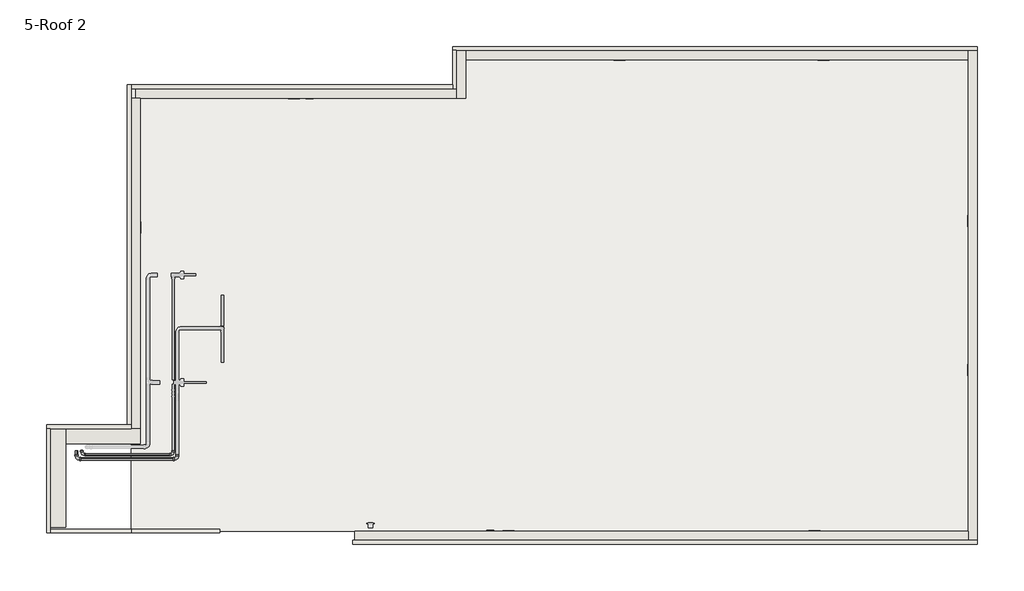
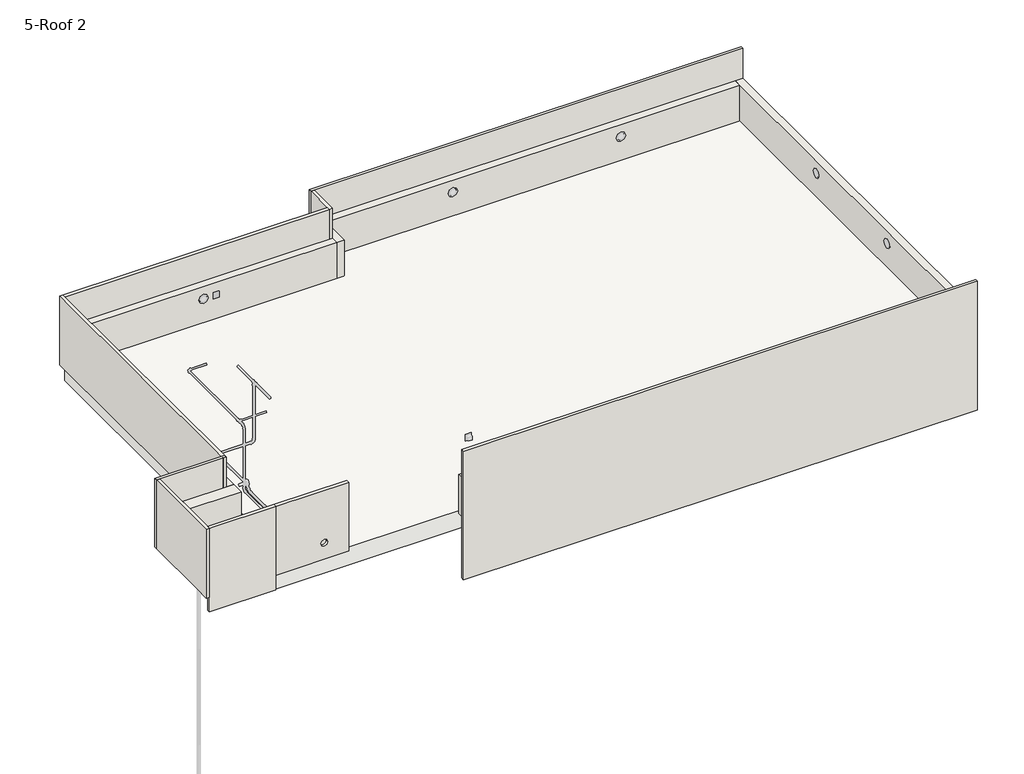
# One storey, part 1 of 2: 17 walls, 4 pipe fittings, 4 pipe segments, 1 light fixture, 1 slab.
"""IFC4 building model written with IfcOpenShell, lengths in millimetres."""

from ifc_helpers import new_model, si_unit, point, frame, frame_2d, origin, place, context, project, spatial, polyline, circle_curve, trimmed, segment, composite_curve, outline, extrude, faceted_brep, transform, mapped, element, save
from ifc_brep_helpers import plane_surface, revolved_surface, advanced_brep
from components import m_recessed_lamp_round_led_e6f06c98, m_bend_pvc_sch_40_dwv_standard_b153bf5a, m_bend_pvc_sch_40_dwv_standard_be9000f5

model = new_model("IFC4")

# Units and contexts
model_context = context("Model", 3, world=origin())
ifc_project = project(units=[si_unit("LENGTHUNIT", "METRE", prefix="MILLI")], contexts=[model_context])

# Site, building, storey
site = spatial("IfcSite", under=ifc_project)
building = spatial("IfcBuilding", under=site)
storey = spatial("IfcBuildingStorey", under=building, Name="5-Roof 2", Elevation=13150.0)

# Light fixture
placement = place(None, origin())
m_recessed_lamp_round_led_shape = m_recessed_lamp_round_led_e6f06c98(model_context)
element("IfcLightFixture", 1, ObjectType="M_Recessed Lamp - Round - LED : 100mm Trimless Downlight", at=placement, inside=storey, context=model_context, shape_type="MappedRepresentation", body=[
    mapped(m_recessed_lamp_round_led_shape, transform((-152.1225102, 2950.6486583, 13600.0), x_axis=(-1.0, 0.0, 0.0), y_axis=(0.0, 0.0, 1.0), z_axis=(0.0, 1.0, 0.0))),
])

# Pipe fittings
m_bend_pvc_sch_40_dwv_standard_shape = m_bend_pvc_sch_40_dwv_standard_b153bf5a(model_context)
element("IfcPipeFitting", 2, ObjectType="M_Bend - PVC - Sch 40 - DWV : Standard", at=placement, inside=storey, context=model_context, shape_type="MappedRepresentation", body=[
    mapped(m_bend_pvc_sch_40_dwv_standard_shape, transform((-5767.4765921, 3888.5526358, 13275.0), x_axis=(0.0, -1.0, 0.0), y_axis=(1.0, 0.0, 0.0), z_axis=(0.0, 0.0, 1.0))),
])
element("IfcPipeFitting", 3, ObjectType="M_Bend - PVC - Sch 40 - DWV : Standard", at=placement, inside=storey, context=model_context, shape_type="MappedRepresentation", body=[
    mapped(m_bend_pvc_sch_40_dwv_standard_shape, transform((-4457.4765921, 3888.5526358, 13275.0), x_axis=(1.0, 0.0, 0.0), y_axis=(0.0, 1.0, 0.0), z_axis=(0.0, 0.0, 1.0))),
])
m_bend_pvc_sch_40_dwv_standard_2_shape = m_bend_pvc_sch_40_dwv_standard_be9000f5(model_context)
element("IfcPipeFitting", 4, ObjectType="M_Bend - PVC - Sch 40 - DWV : Standard", at=placement, inside=storey, context=model_context, shape_type="MappedRepresentation", body=[
    mapped(m_bend_pvc_sch_40_dwv_standard_2_shape, transform((-5698.6248234, 3946.4412776, 13274.9999768), x_axis=(0.0, -0.9999999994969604, -3.171875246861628e-05), y_axis=(0.9999999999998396, -1.7965700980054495e-11, 5.664062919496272e-07), z_axis=(-5.66406292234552e-07, -3.1718752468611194e-05, 0.9999999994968))),
])
element("IfcPipeFitting", 5, ObjectType="M_Bend - PVC - Sch 40 - DWV : Standard", at=placement, inside=storey, context=model_context, shape_type="MappedRepresentation", body=[
    mapped(m_bend_pvc_sch_40_dwv_standard_2_shape, transform((-4508.6248234, 3946.4412776, 13275.0007092), x_axis=(0.9999999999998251, 0.0, 5.914890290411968e-07), y_axis=(0.0, 0.9999999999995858, -9.103269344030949e-07), z_axis=(-5.914890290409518e-07, 9.10326934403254e-07, 0.9999999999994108))),
])

# Pipe segments
element("IfcPipeSegment", 6, ObjectType="PVC - DWV", at=placement, inside=storey, context=model_context, shape_type="SweptSolid", body=[
    extrude(outline(composite_curve([segment(trimmed(circle_curve(frame_2d((13275.0, -5767.4765921)), 16.7005), [point((13275.0, -5784.1770921))], [point((13258.2995, -5767.4765921))], False, "CARTESIAN"), True, "CONTINUOUS"), segment(trimmed(circle_curve(frame_2d((13275.0, -5767.4765921)), 16.7005), [point((13258.2995, -5767.4765921))], [point((13275.0, -5750.7760921))], False, "CARTESIAN"), True, "CONTINUOUS"), segment(trimmed(circle_curve(frame_2d((13275.0, -5767.4765921)), 16.7005), [point((13275.0, -5750.7760921))], [point((13291.7005, -5767.4765921))], False, "CARTESIAN"), True, "CONTINUOUS"), segment(trimmed(circle_curve(frame_2d((13275.0, -5767.4765921)), 16.7005), [point((13291.7005, -5767.4765921))], [point((13275.0, -5784.1770921))], False, "CARTESIAN"), True, "CONTINUOUS")], self_intersect=False)), frame((0.0, 3941.1666983, 0.0), z_axis=(0.0, 1.0, 0.0), x_axis=(0.0, 0.0, 1.0)), (0.0, 0.0, 1.0), 54.771875),
])
element("IfcPipeSegment", 7, ObjectType="PVC - DWV", at=placement, inside=storey, context=model_context, shape_type="SweptSolid", body=[
    extrude(outline(composite_curve([segment(trimmed(circle_curve(frame_2d((3888.5526358, 13275.0)), 16.7005), [point((3871.8521358, 13275.0))], [point((3888.5526358, 13291.7005))], False, "CARTESIAN"), True, "CONTINUOUS"), segment(trimmed(circle_curve(frame_2d((3888.5526358, 13275.0)), 16.7005), [point((3888.5526358, 13291.7005))], [point((3905.2531358, 13275.0))], False, "CARTESIAN"), True, "CONTINUOUS"), segment(trimmed(circle_curve(frame_2d((3888.5526358, 13275.0)), 16.7005), [point((3905.2531358, 13275.0))], [point((3888.5526358, 13258.2995))], False, "CARTESIAN"), True, "CONTINUOUS"), segment(trimmed(circle_curve(frame_2d((3888.5526358, 13275.0)), 16.7005), [point((3888.5526358, 13258.2995))], [point((3871.8521358, 13275.0))], False, "CARTESIAN"), True, "CONTINUOUS")], self_intersect=False)), frame((-5714.8625296, 0.0, 0.0), z_axis=(1.0, 0.0, 0.0), x_axis=(0.0, 1.0, 0.0)), (0.0, 0.0, 1.0), 1204.771875),
])
element("IfcPipeSegment", 8, ObjectType="PVC - DWV", at=placement, inside=storey, context=model_context, shape_type="SweptSolid", body=[
    extrude(outline(composite_curve([segment(trimmed(circle_curve(frame_2d((13275.0016643, -5698.6248234)), 13.335), [point((13275.0016643, -5711.9598234))], [point((13261.6666643, -5698.6248234))], False, "CARTESIAN"), True, "CONTINUOUS"), segment(trimmed(circle_curve(frame_2d((13275.0016643, -5698.6248234)), 13.335), [point((13261.6666643, -5698.6248234))], [point((13275.0016643, -5685.2898234))], False, "CARTESIAN"), True, "CONTINUOUS"), segment(trimmed(circle_curve(frame_2d((13275.0016643, -5698.6248234)), 13.335), [point((13275.0016643, -5685.2898234))], [point((13288.3366643, -5698.6248234))], False, "CARTESIAN"), True, "CONTINUOUS"), segment(trimmed(circle_curve(frame_2d((13275.0016643, -5698.6248234)), 13.335), [point((13288.3366643, -5698.6248234))], [point((13275.0016643, -5711.9598234))], False, "CARTESIAN"), True, "CONTINUOUS")], self_intersect=False)), frame((0.0, 3993.25534, 0.0), z_axis=(0.0, 1.0, 0.0), x_axis=(0.0, 0.0, 1.0)), (0.0, 0.0, 1.0), 6.3892093),
])
element("IfcPipeSegment", 9, ObjectType="PVC - DWV", at=placement, inside=storey, context=model_context, shape_type="SweptSolid", body=[
    extrude(outline(composite_curve([segment(trimmed(circle_curve(frame_2d((3946.4412776, 13275.0000033)), 13.335), [point((3933.1062776, 13275.0000033))], [point((3946.4412776, 13288.3350033))], False, "CARTESIAN"), True, "CONTINUOUS"), segment(trimmed(circle_curve(frame_2d((3946.4412776, 13275.0000033)), 13.335), [point((3946.4412776, 13288.3350033))], [point((3959.7762776, 13275.0000033))], False, "CARTESIAN"), True, "CONTINUOUS"), segment(trimmed(circle_curve(frame_2d((3946.4412776, 13275.0000033)), 13.335), [point((3959.7762776, 13275.0000033))], [point((3946.4412776, 13261.6650033))], False, "CARTESIAN"), True, "CONTINUOUS"), segment(trimmed(circle_curve(frame_2d((3946.4412776, 13275.0000033)), 13.335), [point((3946.4412776, 13261.6650033))], [point((3933.1062776, 13275.0000033))], False, "CARTESIAN"), True, "CONTINUOUS")], self_intersect=False)), frame((-5651.8107609, 0.0, 0.0), z_axis=(1.0, 0.0, 0.0), x_axis=(0.0, 1.0, 0.0)), (0.0, 0.0, 1.0), 1096.371875),
])

# Slab
element("IfcSlab", 10, ObjectType="Generic 250mm", at=placement, inside=storey, context=model_context, shape_type="Brep", body=[
    faceted_brep([(-5057.4765921, 2950.6486583, 12900.0), (-5057.4765921, 8701.6620874, 12900.0), (-827.4765921, 8701.6620874, 12900.0), (-827.4765921, 9201.6620874, 12900.0), (3212.5234079, 9201.6620874, 12900.0), (3712.5234079, 9201.6620874, 12900.0), (5947.8774898, 9201.6620874, 12900.0), (5947.8774898, 2950.6486583, 12900.0), (3712.5234079, 2950.6486583, 12900.0), (3212.5234079, 2950.6486583, 12900.0), (-5057.4765921, 2950.6486583, 13200.0), (5827.8774898, 2950.6486583, 13200.0), (5947.8774898, 2950.6486583, 13200.0), (5947.8774898, 9201.6620874, 13200.0), (5827.8774898, 9201.6620874, 13200.0), (-707.4765921, 9201.6620874, 13200.0), (-827.4765921, 9201.6620874, 13200.0), (-827.4765921, 8701.6620874, 13200.0), (-5057.4765921, 8701.6620874, 13200.0), (5947.8774898, 2950.6486583, 13150.0)], [[[0, 1, 2, 3, 4, 5, 6, 7, 8, 9]], [[10, 11, 12, 13, 14, 15, 16, 17, 18]], [[1, 0, 10, 18]], [[2, 1, 18, 17]], [[3, 2, 17, 16]], [[6, 5, 4, 3, 16, 15, 14, 13]], [[7, 6, 13, 12, 19]], [[0, 9, 8, 7, 19, 12, 11, 10]]]),
])

# Walls
element("IfcWall", 11, ObjectType="Generic - 200mm", at=placement, inside=storey, context=model_context, shape_type="Brep", body=[
    faceted_brep([(-4937.4765921, 4284.4560655, 13150.0), (-5057.4765921, 4284.4560655, 13150.0), (-5107.4765921, 4284.4560655, 13150.0), (-5907.4765921, 4284.4560655, 13150.0), (-5907.4765921, 4284.4560655, 13800.0), (-5057.4765921, 4284.4560655, 13800.0), (-4937.4765921, 4284.4560655, 13800.0), (-4937.4765921, 4084.4560655, 13150.0), (-4937.4765921, 4084.4560655, 13800.0), (-5907.4765921, 4084.4560655, 13800.0), (-5907.4765921, 4084.4560655, 13150.0)], [[[0, 1, 2, 3, 4, 5, 6]], [[7, 8, 9, 10]], [[3, 2, 1, 0, 7, 10]], [[6, 5, 4, 9, 8]], [[4, 3, 10, 9]], [[0, 6, 8, 7]]]),
])
element("IfcWall", 12, ObjectType="Generic - 200mm", at=placement, inside=storey, context=model_context, shape_type="Brep", body=[
    faceted_brep([(-6107.4765921, 4284.4560655, 13150.0), (-6107.4765921, 3170.6486583, 13150.0), (-6107.4765921, 3000.6486583, 13150.0), (-6107.4765921, 3000.6486583, 13800.0), (-6107.4765921, 4284.4560655, 13800.0), (-5907.4765921, 4284.4560655, 13150.0), (-5907.4765921, 4284.4560655, 13800.0), (-5907.4765921, 4084.4560655, 13800.0), (-5907.4765921, 3000.6486583, 13800.0), (-5907.4765921, 3000.6486583, 13150.0), (-5907.4765921, 4084.4560655, 13150.0)], [[[0, 1, 2, 3, 4]], [[5, 6, 7, 8, 9, 10]], [[2, 1, 0, 5, 10, 9]], [[3, 2, 9, 8]], [[4, 3, 8, 7, 6]], [[0, 4, 6, 5]]]),
])
element("IfcWall", 13, ObjectType="Generic -120mm", at=placement, inside=storey, context=model_context, shape_type="AdvancedBrep", body=[
    advanced_brep(
    [(5947.8774898, 9201.6620874, 13800.0), (5947.8774898, 2830.6486583, 13800.0), (5947.8774898, 2830.6486583, 13150.0), (5947.8774898, 2950.6486583, 13150.0), (5947.8774898, 2950.6486583, 13200.0), (5947.8774898, 9201.6620874, 13200.0), (5827.8774898, 2830.6486583, 13800.0), (5827.8774898, 2950.6486583, 13800.0), (5827.8774898, 9081.6620874, 13800.0), (5827.8774898, 9201.6620874, 13800.0), (5827.8774898, 9201.6620874, 13200.0), (5827.8774898, 9081.6620874, 13200.0), (5827.8774898, 2950.6486583, 13200.0), (5827.8774898, 2950.6486583, 13150.0), (5827.8774898, 2830.6486583, 13150.0), (5827.8774898, 4991.4863231, 13600.0), (5827.8774898, 5101.4863231, 13600.0), (5827.8774898, 6926.6620874, 13600.0), (5827.8774898, 7036.6620874, 13600.0), (5865.9774898, 5101.4863231, 13600.0), (5865.9774898, 4991.4863231, 13600.0), (5865.9774898, 7036.6620874, 13600.0), (5865.9774898, 6926.6620874, 13600.0)],
    [
        (0, 1),
        (1, 2),
        (2, 3),
        (3, 4),
        (4, 5),
        (5, 0),
        (6, 7),
        (7, 8),
        (8, 9),
        (9, 10),
        (10, 11),
        (11, 12),
        (12, 13),
        (13, 14),
        (14, 6),
        (15, 16, circle_curve(frame((5827.8774898, 5046.4863231, 13600.0), z_axis=(1.0, 0.0, 0.0), x_axis=(0.0, -1.0, 0.0)), 55.0)),
        (16, 15, circle_curve(frame((5827.8774898, 5046.4863231, 13600.0), z_axis=(1.0, 0.0, 0.0), x_axis=(0.0, -1.0, 0.0)), 55.0)),
        (17, 18, circle_curve(frame((5827.8774898, 6981.6620874, 13600.0), z_axis=(1.0, 0.0, 0.0), x_axis=(0.0, -1.0, 0.0)), 55.0)),
        (18, 17, circle_curve(frame((5827.8774898, 6981.6620874, 13600.0), z_axis=(1.0, 0.0, 0.0), x_axis=(0.0, -1.0, 0.0)), 55.0)),
        (2, 14),
        (13, 3),
        (0, 9),
        (6, 1),
        (5, 10),
        (19, 20, circle_curve(frame((5865.9774898, 5046.4863231, 13600.0), z_axis=(-1.0, 0.0, 0.0), x_axis=(0.0, -1.0, 0.0)), 55.0)),
        (20, 19, circle_curve(frame((5865.9774898, 5046.4863231, 13600.0), z_axis=(-1.0, 0.0, 0.0), x_axis=(0.0, -1.0, 0.0)), 55.0)),
        (19, 16),
        (15, 20),
        (21, 22, circle_curve(frame((5865.9774898, 6981.6620874, 13600.0), z_axis=(-1.0, 0.0, 0.0), x_axis=(0.0, -1.0, 0.0)), 55.0)),
        (22, 21, circle_curve(frame((5865.9774898, 6981.6620874, 13600.0), z_axis=(-1.0, 0.0, 0.0), x_axis=(0.0, -1.0, 0.0)), 55.0)),
        (21, 18),
        (17, 22),
        (4, 12),
    ],
    [
        plane_surface(frame((5947.8774898, 2876.248958, 13150.0), z_axis=(1.0, 0.0, 0.0), x_axis=(0.0, 1.0, 0.0))),
        plane_surface(frame((5827.8774898, 2876.248958, 13150.0), z_axis=(-1.0, 0.0, 0.0), x_axis=(0.0, -1.0, 0.0))),
        plane_surface(frame((5947.8774898, 2890.6486583, 13150.0), z_axis=(0.0, 0.0, -1.0), x_axis=(-1.0, 0.0, 0.0))),
        plane_surface(frame((5947.8774898, 9141.6620874, 13800.0), z_axis=(0.0, 0.0, 1.0), x_axis=(-1.0, 0.0, 0.0))),
        plane_surface(frame((6025.0321009, 9201.6620874, 13150.0), z_axis=(0.0, 1.0, 0.0), x_axis=(-1.0, 0.0, 0.0))),
        plane_surface(frame((5947.8774898, 2830.6486583, 13150.0), z_axis=(0.0, -1.0, 0.0), x_axis=(1.0, 0.0, 0.0))),
        plane_surface(frame((5865.9774898, 4991.4863231, 13600.0), z_axis=(-1.0, 0.0, 0.0), x_axis=(0.0, 0.0, -1.0))),
        revolved_surface(polyline([(5827.8774898, 4991.4863231, 13600.0), (5865.9774898, 4991.4863231, 13600.0)]), (5865.9774898, 5046.4863231, 13600.0), (-1.0, 0.0, 0.0)),
        plane_surface(frame((5865.9774898, 6926.6620874, 13600.0), z_axis=(-1.0, 0.0, 0.0), x_axis=(0.0, 0.0, -1.0))),
        revolved_surface(polyline([(5827.8774898, 6926.6620874, 13600.0), (5865.9774898, 6926.6620874, 13600.0)]), (5865.9774898, 6981.6620874, 13600.0), (-1.0, 0.0, 0.0)),
        plane_surface(frame((-5057.4765921, 8301.6620874, 13200.0), z_axis=(0.0, 0.0, -1.0), x_axis=(0.0, -1.0, 0.0))),
        plane_surface(frame((5947.8774898, 2950.6486583, 12900.0), z_axis=(0.0, 1.0, 0.0), x_axis=(0.0, 0.0, 1.0))),
    ],
    [
        (0, [[1, 2, 3, 4, 5, 6]]),
        (1, [[7, 8, 9, 10, 11, 12, 13, 14, 15], [16, 17], [18, 19]]),
        (2, [[20, -14, 21, -3]]),
        (3, [[-1, 22, -9, -8, -7, 23]]),
        (4, [[-22, -6, 24, -10]]),
        (5, [[-2, -23, -15, -20]]),
        (6, [[25, 26]]),
        (7, [[-25, 27, -16, 28]]),
        (7, [[-26, -28, -17, -27]]),
        (8, [[29, 30]]),
        (9, [[-29, 31, -18, 32]]),
        (9, [[-30, -32, -19, -31]]),
        (10, [[33, -12, -11, -24, -5]]),
        (11, [[-33, -4, -21, -13]]),
    ],
),
])
element("IfcWall", 14, ObjectType="Generic -120mm", at=placement, inside=storey, context=model_context, shape_type="AdvancedBrep", body=[
    advanced_brep(
    [(-707.4765921, 9201.6620874, 13800.0), (5827.8774898, 9201.6620874, 13800.0), (5827.8774898, 9201.6620874, 13200.0), (-707.4765921, 9201.6620874, 13200.0), (5827.8774898, 9081.6620874, 13800.0), (-707.4765921, 9081.6620874, 13800.0), (-707.4765921, 9081.6620874, 13200.0), (5827.8774898, 9081.6620874, 13200.0), (4002.8774898, 9081.6620874, 13600.0), (3892.8774898, 9081.6620874, 13600.0), (1347.5234079, 9081.6620874, 13600.0), (1237.5234079, 9081.6620874, 13600.0), (3892.8774898, 9119.7620874, 13600.0), (4002.8774898, 9119.7620874, 13600.0), (1237.5234079, 9119.7620874, 13600.0), (1347.5234079, 9119.7620874, 13600.0)],
    [
        (0, 1),
        (1, 2),
        (2, 3),
        (3, 0),
        (4, 5),
        (5, 6),
        (6, 7),
        (7, 4),
        (8, 9, circle_curve(frame((3947.8774898, 9081.6620874, 13600.0), z_axis=(0.0, 1.0, 0.0), x_axis=(1.0, 0.0, 0.0)), 55.0)),
        (9, 8, circle_curve(frame((3947.8774898, 9081.6620874, 13600.0), z_axis=(0.0, 1.0, 0.0), x_axis=(1.0, 0.0, 0.0)), 55.0)),
        (10, 11, circle_curve(frame((1292.5234079, 9081.6620874, 13600.0), z_axis=(0.0, 1.0, 0.0), x_axis=(1.0, 0.0, 0.0)), 55.0)),
        (11, 10, circle_curve(frame((1292.5234079, 9081.6620874, 13600.0), z_axis=(0.0, 1.0, 0.0), x_axis=(1.0, 0.0, 0.0)), 55.0)),
        (0, 5),
        (4, 1),
        (7, 2),
        (3, 6),
        (12, 13, circle_curve(frame((3947.8774898, 9119.7620874, 13600.0), z_axis=(0.0, -1.0, 0.0), x_axis=(1.0, 0.0, 0.0)), 55.0)),
        (13, 12, circle_curve(frame((3947.8774898, 9119.7620874, 13600.0), z_axis=(0.0, -1.0, 0.0), x_axis=(1.0, 0.0, 0.0)), 55.0)),
        (12, 9),
        (8, 13),
        (14, 15, circle_curve(frame((1292.5234079, 9119.7620874, 13600.0), z_axis=(0.0, -1.0, 0.0), x_axis=(1.0, 0.0, 0.0)), 55.0)),
        (15, 14, circle_curve(frame((1292.5234079, 9119.7620874, 13600.0), z_axis=(0.0, -1.0, 0.0), x_axis=(1.0, 0.0, 0.0)), 55.0)),
        (14, 11),
        (10, 15),
    ],
    [
        plane_surface(frame((6025.0321009, 9201.6620874, 13150.0), z_axis=(0.0, 1.0, 0.0), x_axis=(-1.0, 0.0, 0.0))),
        plane_surface(frame((6025.0321009, 9081.6620874, 13150.0), z_axis=(0.0, -1.0, 0.0), x_axis=(1.0, 0.0, 0.0))),
        plane_surface(frame((-767.4765921, 9201.6620874, 13800.0), z_axis=(0.0, 0.0, 1.0), x_axis=(0.0, -1.0, 0.0))),
        plane_surface(frame((5827.8774898, 2876.248958, 13150.0), z_axis=(1.0, 0.0, 0.0), x_axis=(0.0, -1.0, 0.0))),
        plane_surface(frame((-707.4765921, 9032.4095349, 13150.0), z_axis=(-1.0, 0.0, 0.0), x_axis=(0.0, 1.0, 0.0))),
        plane_surface(frame((4002.8774898, 9119.7620874, 13600.0), z_axis=(0.0, -1.0, 0.0), x_axis=(0.0, 0.0, -1.0))),
        revolved_surface(polyline([(4002.8774898, 9081.6620874, 13600.0), (4002.8774898, 9119.7620874, 13600.0)]), (3947.8774898, 9119.7620874, 13600.0), (0.0, -1.0, 0.0)),
        plane_surface(frame((1347.5234079, 9119.7620874, 13600.0), z_axis=(0.0, -1.0, 0.0), x_axis=(0.0, 0.0, -1.0))),
        revolved_surface(polyline([(1347.5234079, 9081.6620874, 13600.0), (1347.5234079, 9119.7620874, 13600.0)]), (1292.5234079, 9119.7620874, 13600.0), (0.0, -1.0, 0.0)),
        plane_surface(frame((-5057.4765921, 8301.6620874, 13200.0), z_axis=(0.0, 0.0, -1.0), x_axis=(0.0, -1.0, 0.0))),
    ],
    [
        (0, [[1, 2, 3, 4]]),
        (1, [[5, 6, 7, 8], [9, 10], [11, 12]]),
        (2, [[-1, 13, -5, 14]]),
        (3, [[-14, -8, 15, -2]]),
        (4, [[-13, -4, 16, -6]]),
        (5, [[17, 18]]),
        (6, [[-17, 19, -9, 20]]),
        (6, [[-18, -20, -10, -19]]),
        (7, [[21, 22]]),
        (8, [[-21, 23, -11, 24]]),
        (8, [[-22, -24, -12, -23]]),
        (9, [[-3, -15, -7, -16]]),
    ],
),
])
element("IfcWall", 15, ObjectType="Generic -120mm", at=placement, inside=storey, context=model_context, shape_type="AdvancedBrep", body=[
    advanced_brep(
    [(5827.8774898, 2950.6486583, 13150.0), (-2152.1225102, 2950.6486583, 13150.0), (-2152.1225102, 2950.6486583, 13800.0), (5827.8774898, 2950.6486583, 13800.0), (5827.8774898, 2950.6486583, 13200.0), (-207.1225102, 2950.6486583, 13600.0), (-97.1225102, 2950.6486583, 13600.0), (3772.8774898, 2950.6486583, 13600.0), (3882.8774898, 2950.6486583, 13600.0), (-357.4765921, 2950.6486583, 13570.0), (-357.4765921, 2950.6486583, 13630.0), (-417.4765921, 2950.6486583, 13630.0), (-417.4765921, 2950.6486583, 13570.0), (-2152.1225102, 2830.6486583, 13150.0), (5827.8774898, 2830.6486583, 13150.0), (5827.8774898, 2830.6486583, 13800.0), (-2152.1225102, 2830.6486583, 13800.0), (-97.1225102, 2912.5486583, 13600.0), (-207.1225102, 2912.5486583, 13600.0), (3882.8774898, 2912.5486583, 13600.0), (3772.8774898, 2912.5486583, 13600.0), (-357.4765921, 2900.6486583, 13570.0), (-417.4765921, 2900.6486583, 13570.0), (-417.4765921, 2900.6486583, 13630.0), (-357.4765921, 2900.6486583, 13630.0)],
    [
        (0, 1),
        (1, 2),
        (2, 3),
        (3, 4),
        (4, 0),
        (5, 6, circle_curve(frame((-152.1225102, 2950.6486583, 13600.0), z_axis=(0.0, -1.0, 0.0), x_axis=(-1.0, 0.0, 0.0)), 55.0)),
        (6, 5, circle_curve(frame((-152.1225102, 2950.6486583, 13600.0), z_axis=(0.0, -1.0, 0.0), x_axis=(-1.0, 0.0, 0.0)), 55.0)),
        (7, 8, circle_curve(frame((3827.8774898, 2950.6486583, 13600.0), z_axis=(0.0, -1.0, 0.0), x_axis=(-1.0, 0.0, 0.0)), 55.0)),
        (8, 7, circle_curve(frame((3827.8774898, 2950.6486583, 13600.0), z_axis=(0.0, -1.0, 0.0), x_axis=(-1.0, 0.0, 0.0)), 55.0)),
        (9, 10),
        (10, 11),
        (11, 12),
        (12, 9),
        (13, 14),
        (14, 15),
        (15, 16),
        (16, 13),
        (0, 14),
        (13, 1),
        (16, 2),
        (15, 3),
        (17, 18, circle_curve(frame((-152.1225102, 2912.5486583, 13600.0), z_axis=(0.0, 1.0, 0.0), x_axis=(-1.0, 0.0, 0.0)), 55.0)),
        (18, 17, circle_curve(frame((-152.1225102, 2912.5486583, 13600.0), z_axis=(0.0, 1.0, 0.0), x_axis=(-1.0, 0.0, 0.0)), 55.0)),
        (17, 6),
        (5, 18),
        (19, 20, circle_curve(frame((3827.8774898, 2912.5486583, 13600.0), z_axis=(0.0, 1.0, 0.0), x_axis=(-1.0, 0.0, 0.0)), 55.0)),
        (20, 19, circle_curve(frame((3827.8774898, 2912.5486583, 13600.0), z_axis=(0.0, 1.0, 0.0), x_axis=(-1.0, 0.0, 0.0)), 55.0)),
        (19, 8),
        (7, 20),
        (21, 22),
        (22, 23),
        (23, 24),
        (24, 21),
        (24, 10),
        (9, 21),
        (23, 11),
        (22, 12),
    ],
    [
        plane_surface(frame((5947.8774898, 2950.6486583, 13150.0), z_axis=(0.0, 1.0, 0.0), x_axis=(-1.0, 0.0, 0.0))),
        plane_surface(frame((5947.8774898, 2830.6486583, 13150.0), z_axis=(0.0, -1.0, 0.0), x_axis=(1.0, 0.0, 0.0))),
        plane_surface(frame((5887.8774898, 2950.6486583, 13150.0), z_axis=(0.0, 0.0, -1.0), x_axis=(0.0, -1.0, 0.0))),
        plane_surface(frame((-2152.1225102, 2950.6486583, 13150.0), z_axis=(-1.0, 0.0, 0.0), x_axis=(0.0, -1.0, 0.0))),
        plane_surface(frame((-2152.1225102, 2950.6486583, 13800.0), z_axis=(0.0, 0.0, 1.0), x_axis=(0.0, -1.0, 0.0))),
        plane_surface(frame((5827.8774898, 2876.248958, 13150.0), z_axis=(1.0, 0.0, 0.0), x_axis=(0.0, -1.0, 0.0))),
        plane_surface(frame((-207.1225102, 2912.5486583, 13600.0), z_axis=(0.0, 1.0, 0.0), x_axis=(0.0, 0.0, -1.0))),
        revolved_surface(polyline([(-207.1225102, 2950.6486583, 13600.0), (-207.1225102, 2912.5486583, 13600.0)]), (-152.1225102, 2912.5486583, 13600.0), (0.0, 1.0, 0.0)),
        plane_surface(frame((3772.8774898, 2912.5486583, 13600.0), z_axis=(0.0, 1.0, 0.0), x_axis=(0.0, 0.0, -1.0))),
        revolved_surface(polyline([(3772.8774898, 2950.6486583, 13600.0), (3772.8774898, 2912.5486583, 13600.0)]), (3827.8774898, 2912.5486583, 13600.0), (0.0, 1.0, 0.0)),
        plane_surface(frame((-357.4765921, 2900.6486583, 13570.0), z_axis=(0.0, 1.0, 0.0), x_axis=(0.0, 0.0, 1.0))),
        plane_surface(frame((-357.4765921, 2900.6486583, 13570.0), z_axis=(-1.0, 0.0, 0.0), x_axis=(0.0, 1.0, 0.0))),
        plane_surface(frame((-357.4765921, 2900.6486583, 13630.0), z_axis=(0.0, 0.0, -1.0), x_axis=(0.0, 1.0, 0.0))),
        plane_surface(frame((-417.4765921, 2900.6486583, 13630.0), z_axis=(1.0, 0.0, 0.0), x_axis=(0.0, 1.0, 0.0))),
        plane_surface(frame((-417.4765921, 2900.6486583, 13570.0), z_axis=(0.0, 0.0, 1.0), x_axis=(0.0, 1.0, 0.0))),
    ],
    [
        (0, [[1, 2, 3, 4, 5], [6, 7], [8, 9], [10, 11, 12, 13]]),
        (1, [[14, 15, 16, 17]]),
        (2, [[-1, 18, -14, 19]]),
        (3, [[-2, -19, -17, 20]]),
        (4, [[-3, -20, -16, 21]]),
        (5, [[-18, -5, -4, -21, -15]]),
        (6, [[22, 23]]),
        (7, [[-22, 24, -6, 25]]),
        (7, [[-23, -25, -7, -24]]),
        (8, [[26, 27]]),
        (9, [[-26, 28, -8, 29]]),
        (9, [[-27, -29, -9, -28]]),
        (10, [[30, 31, 32, 33]]),
        (11, [[-33, 34, -10, 35]]),
        (12, [[-32, 36, -11, -34]]),
        (13, [[-31, 37, -12, -36]]),
        (14, [[-30, -35, -13, -37]]),
    ],
),
])
element("IfcWall", 16, ObjectType="Generic -120mm", at=placement, inside=storey, context=model_context, shape_type="Brep", body=[
    faceted_brep([(-827.4765921, 9201.6620874, 13150.0), (-827.4765921, 8701.6620874, 13150.0), (-827.4765921, 8581.6620874, 13150.0), (-827.4765921, 8581.6620874, 13800.0), (-827.4765921, 8701.6620874, 13800.0), (-827.4765921, 9201.6620874, 13800.0), (-707.4765921, 9201.6620874, 13150.0), (-707.4765921, 9201.6620874, 13200.0), (-707.4765921, 9201.6620874, 13800.0), (-707.4765921, 9081.6620874, 13800.0), (-707.4765921, 8581.6620874, 13800.0), (-707.4765921, 8581.6620874, 13150.0)], [[[0, 1, 2, 3, 4, 5]], [[6, 7, 8, 9, 10, 11]], [[2, 1, 0, 6, 11]], [[5, 4, 3, 10, 9, 8]], [[0, 5, 8, 7, 6]], [[3, 2, 11, 10]]]),
])
element("IfcWall", 17, ObjectType="Generic -120mm", at=placement, inside=storey, context=model_context, shape_type="AdvancedBrep", body=[
    advanced_brep(
    [(-4997.4765921, 8581.6620874, 13150.0), (-4937.4765921, 8581.6620874, 13150.0), (-827.4765921, 8581.6620874, 13150.0), (-827.4765921, 8581.6620874, 13800.0), (-4937.4765921, 8581.6620874, 13800.0), (-4997.4765921, 8581.6620874, 13800.0), (-2937.4765921, 8581.6620874, 13655.0), (-2937.4765921, 8581.6620874, 13545.0), (-2767.4765921, 8581.6620874, 13570.0), (-2767.4765921, 8581.6620874, 13630.0), (-2707.4765921, 8581.6620874, 13630.0), (-2707.4765921, 8581.6620874, 13570.0), (-827.4765921, 8701.6620874, 13150.0), (-877.4765921, 8701.6620874, 13150.0), (-4997.4765921, 8701.6620874, 13150.0), (-4997.4765921, 8701.6620874, 13800.0), (-827.4765921, 8701.6620874, 13800.0), (-2937.4765921, 8619.7620874, 13545.0), (-2937.4765921, 8619.7620874, 13655.0), (-2767.4765921, 8631.6620874, 13570.0), (-2707.4765921, 8631.6620874, 13570.0), (-2707.4765921, 8631.6620874, 13630.0), (-2767.4765921, 8631.6620874, 13630.0)],
    [
        (0, 1),
        (1, 2),
        (2, 3),
        (3, 4),
        (4, 5),
        (5, 0),
        (6, 7, circle_curve(frame((-2937.4765921, 8581.6620874, 13600.0), z_axis=(0.0, 1.0, 0.0), x_axis=(0.0, 0.0, 1.0)), 55.0)),
        (7, 6, circle_curve(frame((-2937.4765921, 8581.6620874, 13600.0), z_axis=(0.0, 1.0, 0.0), x_axis=(0.0, 0.0, 1.0)), 55.0)),
        (8, 9),
        (9, 10),
        (10, 11),
        (11, 8),
        (12, 13),
        (13, 14),
        (14, 15),
        (15, 16),
        (16, 12),
        (0, 14),
        (12, 2),
        (3, 16),
        (15, 5),
        (17, 18, circle_curve(frame((-2937.4765921, 8619.7620874, 13600.0), z_axis=(0.0, -1.0, 0.0), x_axis=(0.0, 0.0, 1.0)), 55.0)),
        (18, 17, circle_curve(frame((-2937.4765921, 8619.7620874, 13600.0), z_axis=(0.0, -1.0, 0.0), x_axis=(0.0, 0.0, 1.0)), 55.0)),
        (17, 7),
        (6, 18),
        (19, 20),
        (20, 21),
        (21, 22),
        (22, 19),
        (22, 9),
        (8, 19),
        (21, 10),
        (20, 11),
    ],
    [
        plane_surface(frame((-4478.4802066, 8581.6620874, 13150.0), z_axis=(0.0, -1.0, 0.0), x_axis=(1.0, 0.0, 0.0))),
        plane_surface(frame((-4478.4802066, 8701.6620874, 13150.0), z_axis=(0.0, 1.0, 0.0), x_axis=(-1.0, 0.0, 0.0))),
        plane_surface(frame((-4997.4765921, 8581.6620874, 13150.0), z_axis=(0.0, 0.0, -1.0), x_axis=(0.0, 1.0, 0.0))),
        plane_surface(frame((-767.4765921, 8581.6620874, 13800.0), z_axis=(0.0, 0.0, 1.0), x_axis=(0.0, 1.0, 0.0))),
        plane_surface(frame((-4997.4765921, 8581.6620874, 13800.0), z_axis=(-1.0, 0.0, 0.0), x_axis=(0.0, 1.0, 0.0))),
        plane_surface(frame((-827.4765921, 9032.4095349, 13150.0), z_axis=(1.0, 0.0, 0.0), x_axis=(0.0, -1.0, 0.0))),
        plane_surface(frame((-2937.4765921, 8619.7620874, 13655.0), z_axis=(0.0, -1.0, 0.0), x_axis=(1.0, 0.0, 0.0))),
        revolved_surface(polyline([(-2937.4765921, 8581.6620874, 13655.0), (-2937.4765921, 8619.7620874, 13655.0)]), (-2937.4765921, 8619.7620874, 13600.0), (0.0, -1.0, 0.0)),
        plane_surface(frame((-2767.4765921, 8631.6620874, 13570.0), z_axis=(0.0, -1.0, 0.0), x_axis=(0.0, 0.0, 1.0))),
        plane_surface(frame((-2767.4765921, 8631.6620874, 13570.0), z_axis=(1.0, 0.0, 0.0), x_axis=(0.0, -1.0, 0.0))),
        plane_surface(frame((-2767.4765921, 8631.6620874, 13630.0), z_axis=(0.0, 0.0, -1.0), x_axis=(0.0, -1.0, 0.0))),
        plane_surface(frame((-2707.4765921, 8631.6620874, 13630.0), z_axis=(-1.0, 0.0, 0.0), x_axis=(0.0, -1.0, 0.0))),
        plane_surface(frame((-2707.4765921, 8631.6620874, 13570.0), z_axis=(0.0, 0.0, 1.0), x_axis=(0.0, -1.0, 0.0))),
    ],
    [
        (0, [[1, 2, 3, 4, 5, 6], [7, 8], [9, 10, 11, 12]]),
        (1, [[13, 14, 15, 16, 17]]),
        (2, [[-2, -1, 18, -14, -13, 19]]),
        (3, [[-5, -4, 20, -16, 21]]),
        (4, [[-6, -21, -15, -18]]),
        (5, [[-3, -19, -17, -20]]),
        (6, [[22, 23]]),
        (7, [[-22, 24, -7, 25]]),
        (7, [[-23, -25, -8, -24]]),
        (8, [[26, 27, 28, 29]]),
        (9, [[-29, 30, -9, 31]]),
        (10, [[-28, 32, -10, -30]]),
        (11, [[-27, 33, -11, -32]]),
        (12, [[-26, -31, -12, -33]]),
    ],
),
])
element("IfcWall", 18, ObjectType="Generic -120mm", at=placement, inside=storey, context=model_context, shape_type="AdvancedBrep", body=[
    advanced_brep(
    [(-5057.4765921, 8581.6620874, 13150.0), (-5057.4765921, 4334.4560655, 13150.0), (-5057.4765921, 4284.4560655, 13150.0), (-5057.4765921, 4284.4560655, 13800.0), (-5057.4765921, 8581.6620874, 13800.0), (-4937.4765921, 4284.4560655, 13150.0), (-4937.4765921, 8581.6620874, 13150.0), (-4937.4765921, 8581.6620874, 13800.0), (-4937.4765921, 4284.4560655, 13800.0), (-4937.4765921, 6956.6620874, 13600.0), (-4937.4765921, 6846.6620874, 13600.0), (-4997.4765921, 8581.6620874, 13150.0), (-4997.4765921, 8581.6620874, 13800.0), (-4975.5765921, 6846.6620874, 13600.0), (-4975.5765921, 6956.6620874, 13600.0)],
    [
        (0, 1),
        (1, 2),
        (2, 3),
        (3, 4),
        (4, 0),
        (5, 6),
        (6, 7),
        (7, 8),
        (8, 5),
        (9, 10, circle_curve(frame((-4937.4765921, 6901.6620874, 13600.0), z_axis=(-1.0, 0.0, 0.0), x_axis=(0.0, 1.0, 0.0)), 55.0)),
        (10, 9, circle_curve(frame((-4937.4765921, 6901.6620874, 13600.0), z_axis=(-1.0, 0.0, 0.0), x_axis=(0.0, 1.0, 0.0)), 55.0)),
        (0, 11),
        (11, 6),
        (5, 2),
        (3, 8),
        (7, 12),
        (12, 4),
        (13, 14, circle_curve(frame((-4975.5765921, 6901.6620874, 13600.0), z_axis=(1.0, 0.0, 0.0), x_axis=(0.0, 1.0, 0.0)), 55.0)),
        (14, 13, circle_curve(frame((-4975.5765921, 6901.6620874, 13600.0), z_axis=(1.0, 0.0, 0.0), x_axis=(0.0, 1.0, 0.0)), 55.0)),
        (13, 10),
        (9, 14),
    ],
    [
        plane_surface(frame((-5057.4765921, 8286.2179373, 13150.0), z_axis=(-1.0, 0.0, 0.0), x_axis=(0.0, -1.0, 0.0))),
        plane_surface(frame((-4937.4765921, 8286.2179373, 13150.0), z_axis=(1.0, 0.0, 0.0), x_axis=(0.0, 1.0, 0.0))),
        plane_surface(frame((-5057.4765921, 8641.6620874, 13150.0), z_axis=(0.0, 0.0, -1.0), x_axis=(1.0, 0.0, 0.0))),
        plane_surface(frame((-5057.4765921, 4184.4560655, 13800.0), z_axis=(0.0, 0.0, 1.0), x_axis=(1.0, 0.0, 0.0))),
        plane_surface(frame((-4492.1225101, 4284.4560655, 13150.0), z_axis=(0.0, -1.0, 0.0), x_axis=(-1.0, 0.0, 0.0))),
        plane_surface(frame((-4975.5765921, 6956.6620874, 13600.0), z_axis=(1.0, 0.0, 0.0), x_axis=(0.0, 0.0, -1.0))),
        revolved_surface(polyline([(-4937.4765921, 6956.6620874, 13600.0), (-4975.5765921, 6956.6620874, 13600.0)]), (-4975.5765921, 6901.6620874, 13600.0), (1.0, 0.0, 0.0)),
        plane_surface(frame((-4478.4802066, 8581.6620874, 13150.0), z_axis=(0.0, 1.0, 0.0), x_axis=(1.0, 0.0, 0.0))),
    ],
    [
        (0, [[1, 2, 3, 4, 5]]),
        (1, [[6, 7, 8, 9], [10, 11]]),
        (2, [[-2, -1, 12, 13, -6, 14]]),
        (3, [[-4, 15, -8, 16, 17]]),
        (4, [[-3, -14, -9, -15]]),
        (5, [[18, 19]]),
        (6, [[-18, 20, -10, 21]]),
        (6, [[-19, -21, -11, -20]]),
        (7, [[-5, -17, -16, -7, -13, -12]]),
    ],
),
])
element("IfcWall", 19, ObjectType="exterior stone walls", at=placement, inside=storey, context=model_context, shape_type="Brep", body=[
    faceted_brep([(-877.4765921, 9201.6620874, 13150.0), (-877.4765921, 8751.6620874, 13150.0), (-877.4765921, 8701.6620874, 13150.0), (-877.4765921, 8701.6620874, 14300.0), (-877.4765921, 8751.6620874, 14300.0), (-877.4765921, 9201.6620874, 14300.0), (-827.4765921, 9201.6620874, 13150.0), (-827.4765921, 9201.6620874, 14300.0), (-827.4765921, 8701.6620874, 14300.0), (-827.4765921, 8701.6620874, 13800.0), (-827.4765921, 8701.6620874, 13150.0)], [[[0, 1, 2, 3, 4, 5]], [[6, 7, 8, 9, 10]], [[0, 5, 7, 6]], [[2, 10, 9, 8, 3]], [[2, 1, 0, 6, 10]], [[5, 4, 3, 8, 7]]]),
])
element("IfcWall", 20, ObjectType="exterior stone walls", at=placement, inside=storey, context=model_context, shape_type="SweptSolid", body=[
    extrude(outline(polyline([(-5057.4765921, 8751.6620874), (-877.4765921, 8751.6620874), (-877.4765921, 8701.6620874), (-5057.4765921, 8701.6620874), (-5057.4765921, 8751.6620874)])), frame((0.0, 0.0, 13150.0), z_axis=(0.0, 0.0, 1.0), x_axis=(1.0, 0.0, 0.0)), (0.0, 0.0, 1.0), 1150.0),
])
element("IfcWall", 21, ObjectType="exterior stone walls", at=placement, inside=storey, context=model_context, shape_type="Brep", body=[
    faceted_brep([(5947.8774898, 9251.6620874, 13150.0), (-827.4765921, 9251.6620874, 13150.0), (-877.4765921, 9251.6620874, 13150.0), (-877.4765921, 9251.6620874, 14300.0), (5947.8774898, 9251.6620874, 14300.0), (5947.8774898, 9201.6620874, 13150.0), (5947.8774898, 9201.6620874, 14300.0), (-827.4765921, 9201.6620874, 14300.0), (-877.4765921, 9201.6620874, 14300.0), (-877.4765921, 9201.6620874, 13150.0), (-827.4765921, 9201.6620874, 13150.0)], [[[0, 1, 2, 3, 4]], [[5, 6, 7, 8, 9, 10]], [[3, 2, 9, 8]], [[2, 1, 0, 5, 10, 9]], [[4, 3, 8, 7, 6]], [[0, 4, 6, 5]]]),
])
element("IfcWall", 22, ObjectType="exterior stone walls", at=placement, inside=storey, context=model_context, shape_type="Brep", body=[
    faceted_brep([(5947.8774898, 2830.6486583, 12150.0), (-2177.1225102, 2830.6486583, 12150.0), (-2177.1225102, 2830.6486583, 14300.0), (5947.8774898, 2830.6486583, 14300.0), (5947.8774898, 2780.6486583, 12150.0), (5947.8774898, 2780.6486583, 12190.0), (5947.8774898, 2780.6486583, 14300.0), (-2177.1225102, 2780.6486583, 14300.0), (-2177.1225102, 2780.6486583, 12150.0)], [[[0, 1, 2, 3]], [[4, 5, 6, 7, 8]], [[0, 3, 6, 5, 4]], [[1, 0, 4, 8]], [[2, 1, 8, 7]], [[3, 2, 7, 6]]]),
])
element("IfcWall", 23, ObjectType="exterior stone walls", at=placement, inside=storey, context=model_context, shape_type="Brep", body=[
    faceted_brep([(-5107.4765921, 8751.6620874, 13150.0), (-5107.4765921, 4284.4560655, 13150.0), (-5107.4765921, 4284.4560655, 14050.0), (-5107.4765921, 4284.4560655, 14300.0), (-5107.4765921, 4334.4560655, 14300.0), (-5107.4765921, 8751.6620874, 14300.0), (-5057.4765921, 8751.6620874, 13150.0), (-5057.4765921, 8751.6620874, 14300.0), (-5057.4765921, 8701.6620874, 14300.0), (-5057.4765921, 4284.4560655, 14300.0), (-5057.4765921, 4284.4560655, 13150.0), (-5057.4765921, 8701.6620874, 13150.0)], [[[0, 1, 2, 3, 4, 5]], [[6, 7, 8, 9, 10, 11]], [[1, 10, 9, 3, 2]], [[0, 5, 7, 6]], [[1, 0, 6, 11, 10]], [[5, 4, 3, 9, 8, 7]]]),
])
element("IfcWall", 24, ObjectType="exterior stone walls", at=placement, inside=storey, context=model_context, shape_type="Brep", body=[
    faceted_brep([(-5057.4765921, 4334.4560655, 13150.0), (-5107.4765921, 4334.4560655, 13150.0), (-6157.4765921, 4334.4560655, 13150.0), (-6157.4765921, 4334.4560655, 14300.0), (-5057.4765921, 4334.4560655, 14300.0), (-5057.4765921, 4284.4560655, 13150.0), (-5057.4765921, 4284.4560655, 13800.0), (-5057.4765921, 4284.4560655, 14300.0), (-6107.4765921, 4284.4560655, 14300.0), (-6157.4765921, 4284.4560655, 14300.0), (-6157.4765921, 4284.4560655, 13150.0), (-6107.4765921, 4284.4560655, 13150.0), (-5907.4765921, 4284.4560655, 13150.0), (-5107.4765921, 4284.4560655, 13150.0)], [[[0, 1, 2, 3, 4]], [[5, 6, 7, 8, 9, 10, 11, 12, 13]], [[0, 4, 7, 6, 5]], [[3, 2, 10, 9]], [[2, 1, 0, 5, 13, 12, 11, 10]], [[4, 3, 9, 8, 7]]]),
])
element("IfcWall", 25, ObjectType="exterior stone walls", at=placement, inside=storey, context=model_context, shape_type="Brep", body=[
    faceted_brep([(-6157.4765921, 4284.4560655, 13150.0), (-6157.4765921, 3176.4863231, 13150.0), (-6157.4765921, 2926.4863231, 13150.0), (-6157.4765921, 2926.4863231, 14300.0), (-6157.4765921, 4284.4560655, 14300.0), (-6107.4765921, 4284.4560655, 13150.0), (-6107.4765921, 4284.4560655, 14300.0), (-6107.4765921, 2976.4863231, 14300.0), (-6107.4765921, 2926.4863231, 14300.0), (-6107.4765921, 2926.4863231, 13150.0), (-6107.4765921, 3176.4863231, 13150.0)], [[[0, 1, 2, 3, 4]], [[5, 6, 7, 8, 9, 10]], [[0, 4, 6, 5]], [[3, 2, 9, 8]], [[2, 1, 0, 5, 10, 9]], [[4, 3, 8, 7, 6]]]),
])
element("IfcWall", 26, ObjectType="exterior stone walls", at=placement, inside=storey, context=model_context, shape_type="Brep", body=[
    faceted_brep([(-5057.4765921, 2976.4863231, 12900.0), (-6107.4765921, 2976.4863231, 12900.0), (-6107.4765921, 2976.4863231, 14300.0), (-5057.4765921, 2976.4863231, 14300.0), (-5057.4765921, 2976.4863231, 13150.0), (-5057.4765921, 2926.4863231, 12900.0), (-5057.4765921, 2926.4863231, 13150.0), (-5057.4765921, 2926.4863231, 14300.0), (-6107.4765921, 2926.4863231, 14300.0), (-6107.4765921, 2926.4863231, 13150.0), (-6107.4765921, 2926.4863231, 12900.0)], [[[0, 1, 2, 3, 4]], [[5, 6, 7, 8, 9, 10]], [[2, 1, 10, 9, 8]], [[1, 0, 5, 10]], [[3, 2, 8, 7]], [[0, 4, 3, 7, 6, 5]]]),
])
element("IfcWall", 27, ObjectType="exterior stone walls", at=placement, inside=storey, context=model_context, shape_type="AdvancedBrep", body=[
    advanced_brep(
    [(-3907.4765921, 2976.4863231, 13150.0), (-5057.4765921, 2976.4863231, 13150.0), (-5057.4765921, 2976.4863231, 14300.0), (-3907.4765921, 2976.4863231, 14300.0), (-5057.4765921, 2926.4863231, 13150.0), (-3907.4765921, 2926.4863231, 13150.0), (-3907.4765921, 2926.4863231, 14300.0), (-5057.4765921, 2926.4863231, 14300.0), (-4238.8265921, 2926.4863231, 13423.9355638), (-4348.8265921, 2926.4863231, 13423.9355638), (-4348.8265921, 2964.5863231, 13423.9355638), (-4238.8265921, 2964.5863231, 13423.9355638)],
    [
        (0, 1),
        (1, 2),
        (2, 3),
        (3, 0),
        (4, 5),
        (5, 6),
        (6, 7),
        (7, 4),
        (8, 9, circle_curve(frame((-4293.8265921, 2926.4863231, 13423.9355638), z_axis=(0.0, 1.0, 0.0), x_axis=(1.0, 0.0, 0.0)), 55.0)),
        (9, 8, circle_curve(frame((-4293.8265921, 2926.4863231, 13423.9355638), z_axis=(0.0, 1.0, 0.0), x_axis=(1.0, 0.0, 0.0)), 55.0)),
        (10, 11, circle_curve(frame((-4293.8265921, 2964.5863231, 13423.9355638), z_axis=(0.0, -1.0, 0.0), x_axis=(1.0, 0.0, 0.0)), 55.0)),
        (11, 10, circle_curve(frame((-4293.8265921, 2964.5863231, 13423.9355638), z_axis=(0.0, -1.0, 0.0), x_axis=(1.0, 0.0, 0.0)), 55.0)),
        (10, 9),
        (8, 11),
        (0, 5),
        (4, 1),
        (7, 2),
        (6, 3),
    ],
    [
        plane_surface(frame((7097.8774898, 2976.4863231, 13150.0), z_axis=(0.0, 1.0, 0.0), x_axis=(-1.0, 0.0, 0.0))),
        plane_surface(frame((7097.8774898, 2926.4863231, 13150.0), z_axis=(0.0, -1.0, 0.0), x_axis=(1.0, 0.0, 0.0))),
        plane_surface(frame((-4238.8265921, 2964.5863231, 13423.9355638), z_axis=(0.0, -1.0, 0.0), x_axis=(0.0, 0.0, -1.0))),
        revolved_surface(polyline([(-4238.8265921, 2926.4863231, 13423.9355638), (-4238.8265921, 2964.5863231, 13423.9355638)]), (-4293.8265921, 2964.5863231, 13423.9355638), (0.0, -1.0, 0.0)),
        plane_surface(frame((-3907.4765921, 2976.4863231, 13150.0), z_axis=(0.0, 0.0, -1.0), x_axis=(0.0, -1.0, 0.0))),
        plane_surface(frame((-5057.4765921, 2976.4863231, 13150.0), z_axis=(-1.0, 0.0, 0.0), x_axis=(0.0, -1.0, 0.0))),
        plane_surface(frame((-5057.4765921, 2976.4863231, 14300.0), z_axis=(0.0, 0.0, 1.0), x_axis=(0.0, -1.0, 0.0))),
        plane_surface(frame((-3907.4765921, 2976.4863231, 14300.0), z_axis=(1.0, 0.0, 0.0), x_axis=(0.0, -1.0, 0.0))),
    ],
    [
        (0, [[1, 2, 3, 4]]),
        (1, [[5, 6, 7, 8], [9, 10]]),
        (2, [[11, 12]]),
        (3, [[-11, 13, -9, 14]]),
        (3, [[-12, -14, -10, -13]]),
        (4, [[-1, 15, -5, 16]]),
        (5, [[-2, -16, -8, 17]]),
        (6, [[-3, -17, -7, 18]]),
        (7, [[-4, -18, -6, -15]]),
    ],
),
])

save(model, "model.ifc")
